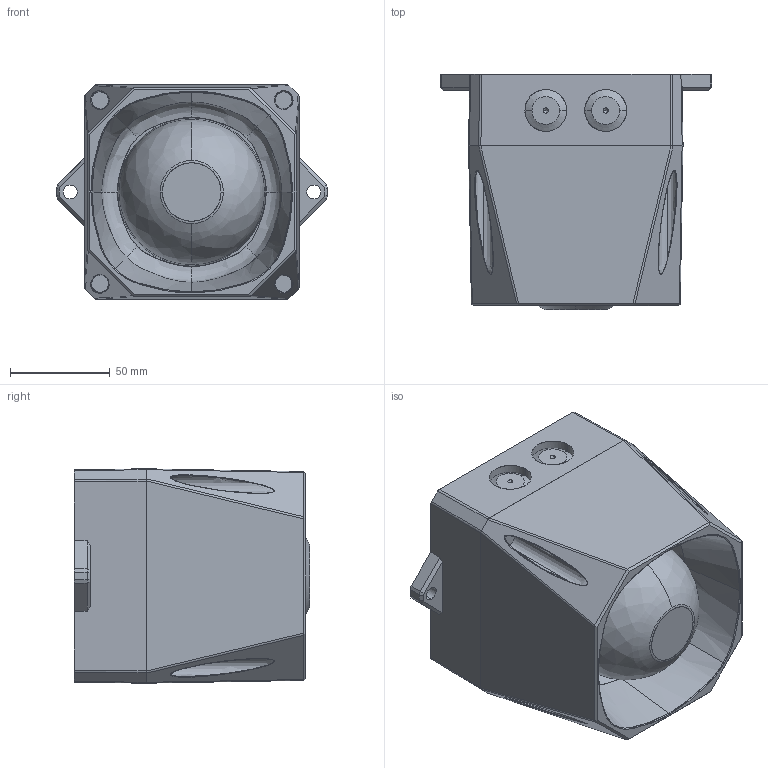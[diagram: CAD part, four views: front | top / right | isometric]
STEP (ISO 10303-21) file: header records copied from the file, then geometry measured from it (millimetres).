
FILE_DESCRIPTION(/* description */ ('Customer-3D 139'),/* implementation_level */ '2;1');
FILE_NAME(/* name */ 'C:\CEWorkDir\0050569C0EFC1EDE9396B8D52C9BA0CD\in\100000015371_prt_000.step',/* time_stamp */ '2023-09-06T15:09:03+02:00',/* author */ ('JENNERT'),/* organization */ ('WERMA Signaltechnik GmbH+Co.KG'),/* preprocessor_version */ 'ST-DEVELOPER v17',/* originating_system */ 'Autodesk Inventor 2018',/* authorisation */ 'public');
FILE_SCHEMA (('AUTOMOTIVE_DESIGN { 1 0 10303 214 3 1 1 }'));
Length unit declared in the file: millimetre
Products named in the file (1): 100000015371_prt_000_1
Bounding box: 136.12 x 118 x 107.5 mm (x, y, z)
Surface area: 111023.2 mm2 (no closed solid volume)
Topology: 0 solids, 289 shells, 289 faces, 1441 edges, 1431 vertices
Faces by surface type: plane 135, cylinder 56, bspline 50, cone 36, torus 8, sphere 4
Entity records: 30256 total; most frequent: CARTESIAN_POINT 19129, DIRECTION 1978, ORIENTED_EDGE 1435, VERTEX_POINT 1431, EDGE_CURVE 1431, LINE 752, VECTOR 752, AXIS2_PLACEMENT_3D 613
